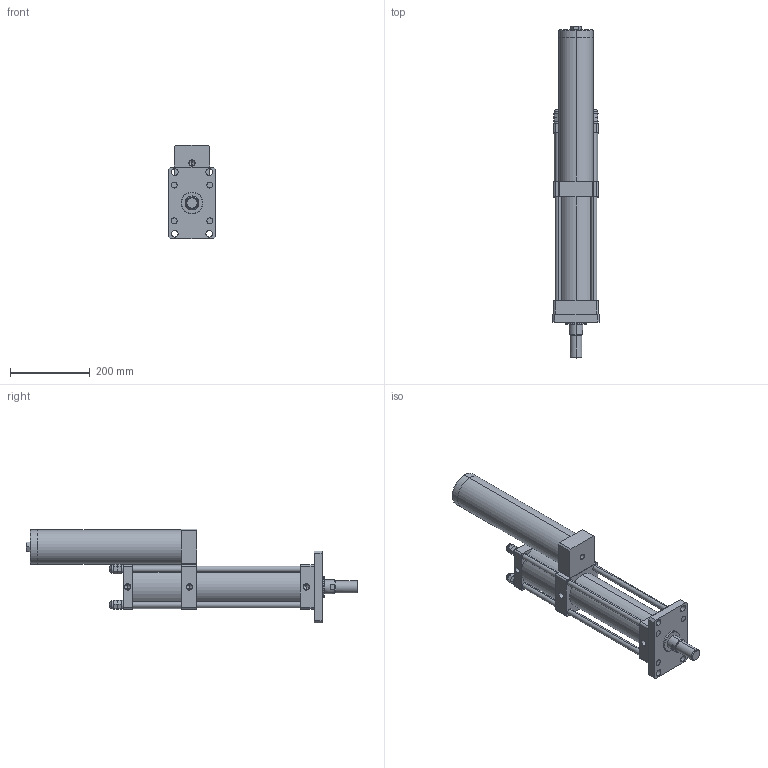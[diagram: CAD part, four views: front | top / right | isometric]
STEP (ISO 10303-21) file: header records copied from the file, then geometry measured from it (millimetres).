
FILE_DESCRIPTION (( 'STEP AP203' ), '1' );
FILE_NAME ('MPT-80-200-5-5T.STEP', '2016-03-11T01:43:17', ( 'WIN' ), ( '' ), 'SwSTEP 2.0', 'SolidWorks 2014', '' );
FILE_SCHEMA (( 'CONFIG_CONTROL_DESIGN' ));
Length unit declared in the file: millimetre
Products named in the file (1): MPT-80-200-5-5T
Bounding box: 118 x 835 x 235 mm (x, y, z)
Volume: 5454809.5 mm3; surface area: 711567.8 mm2
Topology: 20 solids, 20 shells, 391 faces, 954 edges, 554 vertices
Faces by surface type: plane 184, cylinder 84, torus 48, bspline 48, cone 27
Entity records: 12532 total; most frequent: CARTESIAN_POINT 3676, DIRECTION 1861, ORIENTED_EDGE 1776, EDGE_CURVE 888, AXIS2_PLACEMENT_3D 683, VERTEX_POINT 554, LINE 495, VECTOR 495
